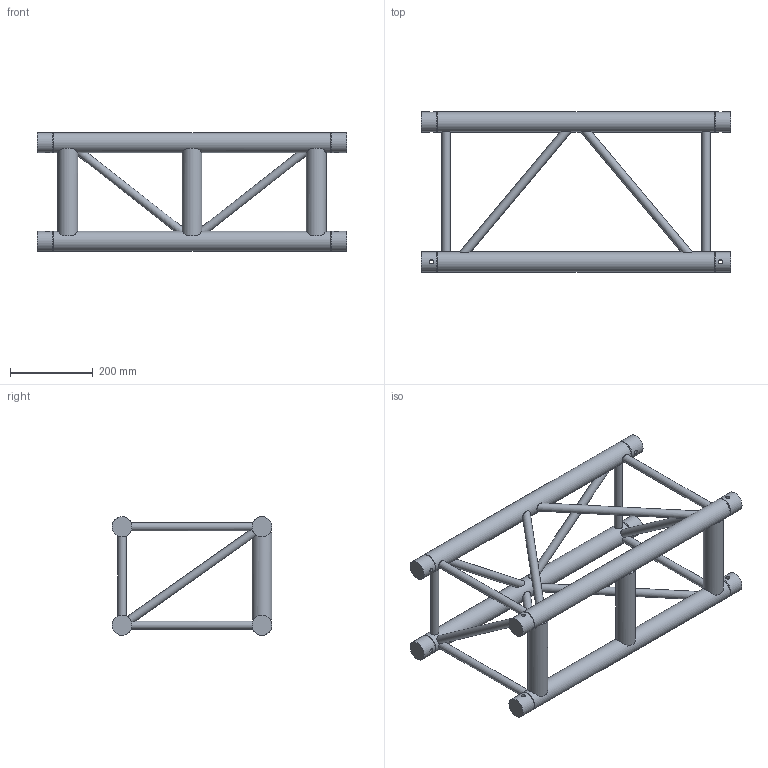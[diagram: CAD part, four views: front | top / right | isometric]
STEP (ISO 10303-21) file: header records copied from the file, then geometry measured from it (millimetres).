
FILE_DESCRIPTION(/* description */ (''),/* implementation_level */ '2;1');
FILE_NAME(/* name */ 'C:\Users\adrian.toca\Desktop\111050822.stp',/* time_stamp */ '2016-09-19T09:34:27+03:00',/* author */ ('adrian.toca'),/* organization */ (''),/* preprocessor_version */ 'ST-DEVELOPER v15.6',/* originating_system */ 'Autodesk Inventor 2015',/* authorisation */ '');
FILE_SCHEMA (('AUTOMOTIVE_DESIGN { 1 0 10303 214 3 1 1 }'));
Length unit declared in the file: millimetre
Products named in the file (1): 260030918
Bounding box: 750 x 387.3 x 287.3 mm (x, y, z)
Volume: 7698828.5 mm3; surface area: 850593.3 mm2
Topology: 7 solids, 8 shells, 113 faces, 283 edges, 182 vertices
Faces by surface type: plane 58, cylinder 47, cone 8
Full cylindrical faces by diameter (mm): 10 x8, 20 x14, 48.3 x15
Entity records: 4112 total; most frequent: CARTESIAN_POINT 1608, DIRECTION 470, ORIENTED_EDGE 420, AXIS2_PLACEMENT_3D 218, EDGE_LOOP 204, EDGE_CURVE 198, VERTEX_POINT 158, STYLED_ITEM 104
